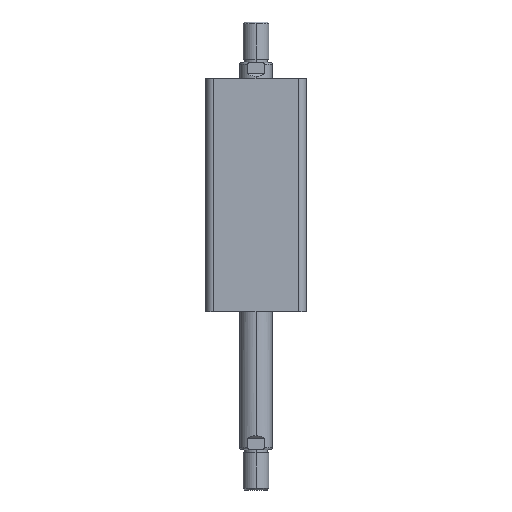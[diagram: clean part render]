
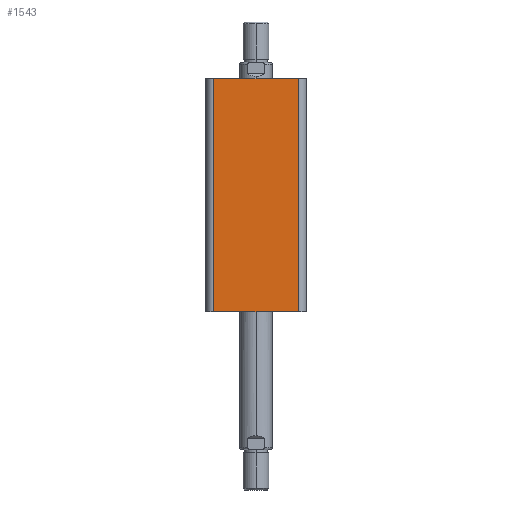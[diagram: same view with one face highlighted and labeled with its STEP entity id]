
A CAD part, left-side view. The second image highlights one B-rep face of the part: STEP entity #1543.
In plain terms, the highlighted planar face has unit normal (-1, 0, 0).
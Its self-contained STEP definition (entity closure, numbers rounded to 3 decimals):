
#158 = EDGE_CURVE ( 'NONE', #551, #797, #2929, .T. ) ;
#159 = EDGE_CURVE ( 'NONE', #797, #796, #2925, .T. ) ;
#160 = EDGE_CURVE ( 'NONE', #553, #796, #2933, .T. ) ;
#161 = EDGE_CURVE ( 'NONE', #553, #551, #2935, .T. ) ;
#373 = EDGE_LOOP ( 'NONE', ( #717, #716, #715, #714 ) ) ;
#551 = VERTEX_POINT ( 'NONE', #962 ) ;
#553 = VERTEX_POINT ( 'NONE', #964 ) ;
#714 = ORIENTED_EDGE ( 'NONE', *, *, #161, .T. ) ;
#715 = ORIENTED_EDGE ( 'NONE', *, *, #160, .F. ) ;
#716 = ORIENTED_EDGE ( 'NONE', *, *, #159, .T. ) ;
#717 = ORIENTED_EDGE ( 'NONE', *, *, #158, .T. ) ;
#796 = VERTEX_POINT ( 'NONE', #1040 ) ;
#797 = VERTEX_POINT ( 'NONE', #1041 ) ;
#962 = CARTESIAN_POINT ( 'NONE',  ( -31., 26., 0. ) ) ;
#964 = CARTESIAN_POINT ( 'NONE',  ( -31., 26., 144. ) ) ;
#1040 = CARTESIAN_POINT ( 'NONE',  ( -31., -26., 144. ) ) ;
#1041 = CARTESIAN_POINT ( 'NONE',  ( -31., -26., 0. ) ) ;
#1226 = CARTESIAN_POINT ( 'NONE',  ( -31., 31., 144. ) ) ;
#1234 = PLANE ( 'NONE',  #2156 ) ;
#1236 = DIRECTION ( 'NONE',  ( 1., 0., 0. ) ) ;
#1237 = DIRECTION ( 'NONE',  ( 0., 1., 0. ) ) ;
#1543 = ADVANCED_FACE ( 'NONE', ( #1812 ), #1234, .F. ) ;
#1812 = FACE_OUTER_BOUND ( 'NONE', #373, .T. ) ;
#2156 = AXIS2_PLACEMENT_3D ( 'NONE', #1226, #1236, #1237 ) ;
#2617 = CARTESIAN_POINT ( 'NONE',  ( -31., -26., 144. ) ) ;
#2628 = CARTESIAN_POINT ( 'NONE',  ( -31., 31., 0. ) ) ;
#2629 = DIRECTION ( 'NONE',  ( 0., -1., 0. ) ) ;
#2630 = DIRECTION ( 'NONE',  ( 0., 0., 1. ) ) ;
#2631 = CARTESIAN_POINT ( 'NONE',  ( -31., 31., 144. ) ) ;
#2632 = DIRECTION ( 'NONE',  ( 0., -1., 0. ) ) ;
#2633 = CARTESIAN_POINT ( 'NONE',  ( -31., 26., 144. ) ) ;
#2634 = DIRECTION ( 'NONE',  ( 0., 0., -1. ) ) ;
#2925 = LINE ( 'NONE', #2617, #2934 ) ;
#2929 = LINE ( 'NONE', #2628, #2932 ) ;
#2932 = VECTOR ( 'NONE', #2629, 1000. ) ;
#2933 = LINE ( 'NONE', #2631, #2936 ) ;
#2934 = VECTOR ( 'NONE', #2630, 1000. ) ;
#2935 = LINE ( 'NONE', #2633, #2938 ) ;
#2936 = VECTOR ( 'NONE', #2632, 1000. ) ;
#2938 = VECTOR ( 'NONE', #2634, 1000. ) ;
